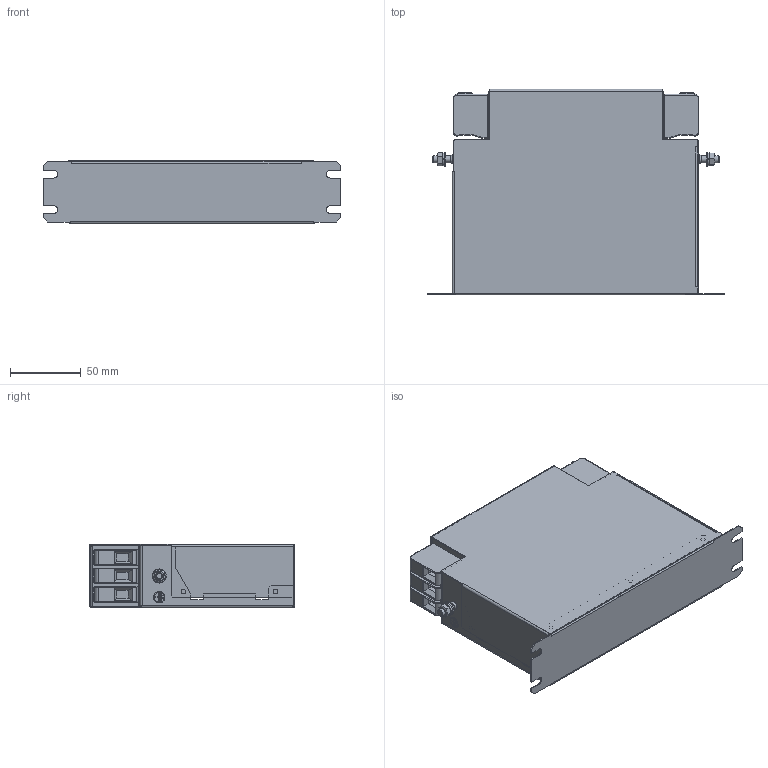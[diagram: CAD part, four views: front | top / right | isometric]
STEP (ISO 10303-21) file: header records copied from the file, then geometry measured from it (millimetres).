
FILE_DESCRIPTION(/* description */ ('raw material description'),/* implementation_level */ '2;1');
FILE_NAME(/* name */ 'C:\Users\Oliver.Volic\OneDrive - Schaffner EMV AG\Projekte\STEP\Wanda\FN3288-20-33.stp',/* time_stamp */ '2018-06-27T14:08:54+02:00',/* author */ ('Oliver.Volic'),/* organization */ ('Schaffner EMV AG'),/* preprocessor_version */ 'ST-DEVELOPER v16.5',/* originating_system */ 'Autodesk Inventor 2017',/* authorisation */ '');
FILE_SCHEMA (('AUTOMOTIVE_DESIGN { 1 0 10303 214 3 1 1 }'));
Length unit declared in the file: millimetre
Products named in the file (1): FN3288-20-33
Bounding box: 210 x 145.1 x 45 mm (x, y, z)
Volume: 122308.5 mm3; surface area: 174683 mm2
Topology: 1 solids, 7 shells, 1372 faces, 3374 edges, 1986 vertices
Faces by surface type: plane 828, cylinder 352, torus 84, sphere 72, bspline 22, cone 14
Full cylindrical faces by diameter (mm): 3.3 x13, 5 x4, 5.1 x6, 5.3 x2, 6.206 x2, 7 x2, 8 x2, 10 x8
Entity records: 40786 total; most frequent: CARTESIAN_POINT 7482, DIRECTION 6678, ORIENTED_EDGE 6466, EDGE_CURVE 3229, LINE 2326, VECTOR 2326, AXIS2_PLACEMENT_3D 2176, VERTEX_POINT 1966
